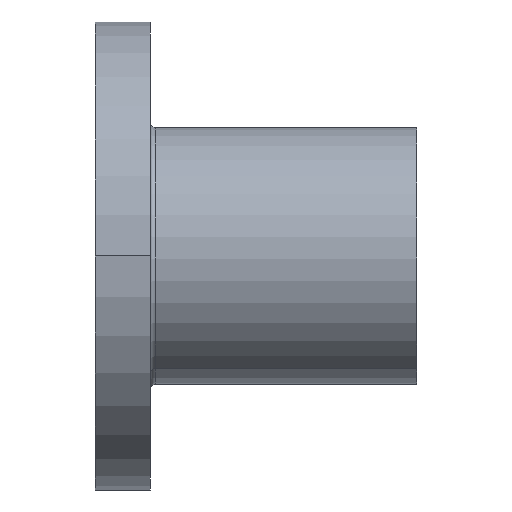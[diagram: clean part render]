
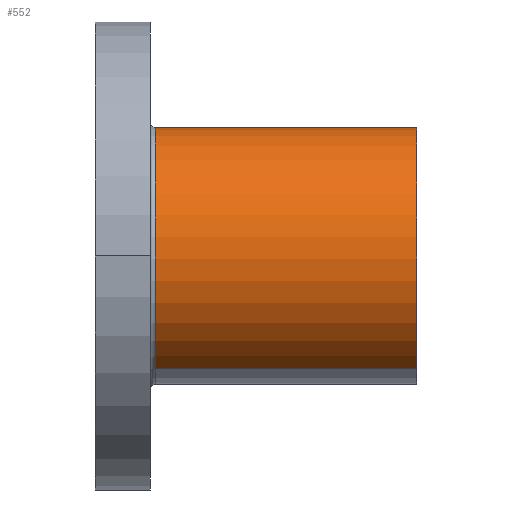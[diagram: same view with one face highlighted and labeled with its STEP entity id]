
A CAD part, front view. The second image highlights one B-rep face of the part: STEP entity #552.
In plain terms, the highlighted cylindrical face has radius 14 mm (diameter 28 mm), a partial arc.
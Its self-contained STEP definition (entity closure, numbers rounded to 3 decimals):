
#143=CARTESIAN_POINT('Axis2P3D Location',(35.,0.,0.)) ;
#147=CARTESIAN_POINT('Vertex',(35.,6.712,12.286)) ;
#149=CARTESIAN_POINT('Vertex',(35.,-6.712,-12.286)) ;
#522=CARTESIAN_POINT('Axis2P3D Location',(50.092,0.,0.)) ;
#527=CARTESIAN_POINT('Line Origine',(50.092,-6.712,-12.286)) ;
#531=CARTESIAN_POINT('Vertex',(6.5,-6.712,-12.286)) ;
#534=CARTESIAN_POINT('Line Origine',(50.092,6.712,12.286)) ;
#538=CARTESIAN_POINT('Vertex',(6.5,6.712,12.286)) ;
#541=CARTESIAN_POINT('Axis2P3D Location',(6.5,0.,0.)) ;
#144=DIRECTION('Axis2P3D Direction',(1.,0.,0.)) ;
#523=DIRECTION('Axis2P3D Direction',(-1.,0.,0.)) ;
#524=DIRECTION('Axis2P3D XDirection',(0.,-0.479,-0.878)) ;
#528=DIRECTION('Vector Direction',(-1.,0.,0.)) ;
#535=DIRECTION('Vector Direction',(-1.,0.,0.)) ;
#542=DIRECTION('Axis2P3D Direction',(-1.,0.,0.)) ;
#145=AXIS2_PLACEMENT_3D('Circle Axis2P3D',#143,#144,$) ;
#525=AXIS2_PLACEMENT_3D('Cylinder Axis2P3D',#522,#523,#524) ;
#543=AXIS2_PLACEMENT_3D('Circle Axis2P3D',#541,#542,$) ;
#547=ORIENTED_EDGE('',*,*,#533,.F.) ;
#548=ORIENTED_EDGE('',*,*,#151,.F.) ;
#549=ORIENTED_EDGE('',*,*,#540,.T.) ;
#550=ORIENTED_EDGE('',*,*,#545,.T.) ;
#529=VECTOR('Line Direction',#528,1.) ;
#536=VECTOR('Line Direction',#535,1.) ;
#552=ADVANCED_FACE('CTM16',(#551),#526,.T.) ;
#146=CIRCLE('generated circle',#145,14.) ;
#544=CIRCLE('generated circle',#543,14.) ;
#526=CYLINDRICAL_SURFACE('generated cylinder',#525,14.) ;
#151=EDGE_CURVE('',#148,#150,#146,.T.) ;
#533=EDGE_CURVE('',#150,#532,#530,.T.) ;
#540=EDGE_CURVE('',#148,#539,#537,.T.) ;
#545=EDGE_CURVE('',#539,#532,#544,.F.) ;
#546=EDGE_LOOP('',(#547,#548,#549,#550)) ;
#551=FACE_OUTER_BOUND('',#546,.T.) ;
#530=LINE('Line',#527,#529) ;
#537=LINE('Line',#534,#536) ;
#148=VERTEX_POINT('',#147) ;
#150=VERTEX_POINT('',#149) ;
#532=VERTEX_POINT('',#531) ;
#539=VERTEX_POINT('',#538) ;
